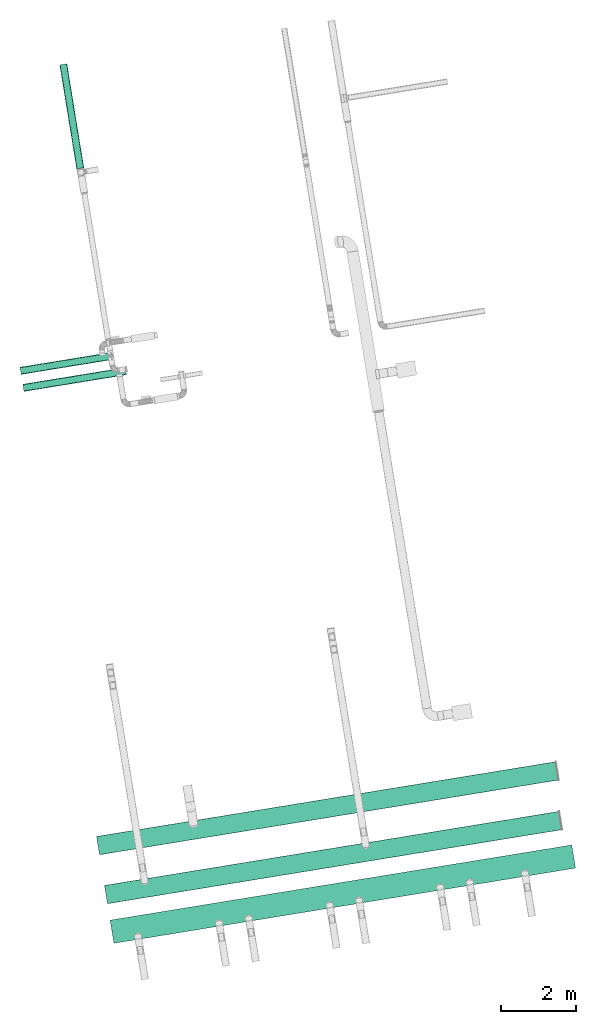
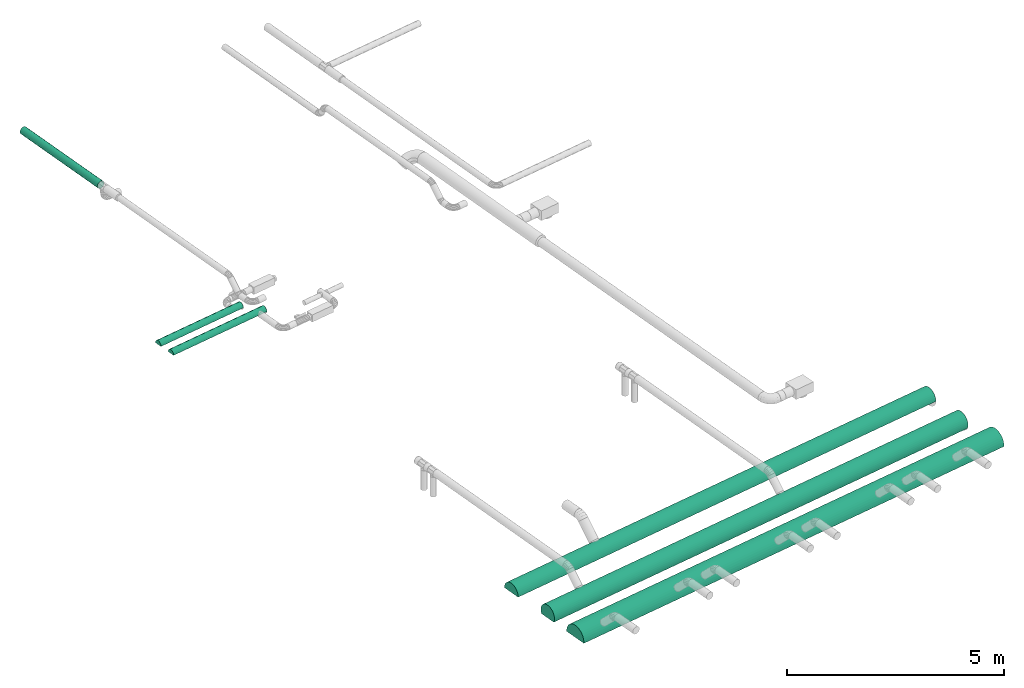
# One storey, part 9 of 19: 6 flow segments.
"""IFC2X3 building model written with IfcOpenShell, lengths in millimetres."""

from ifc_helpers import new_model, entity, si_unit, converted_unit, derived_unit, direction, frame, origin, origin_with_axes, place, context, subcontext, project, spatial, faceted_brep, material, type_object, element, save


model = new_model("IFC2X3")

# Units and contexts
model_context = context("Model", 3, precision=0.01, world=origin(), true_north=direction((6.12323399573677e-17, 1.0)))
plan_context = context("Plan", 3, precision=1e-05, world=origin_with_axes())
body_context = subcontext(model_context, "Body", "Model", "MODEL_VIEW")
ifc_project = project(units=[converted_unit("PLANEANGLEUNIT", "DEGREE", entity("IfcPositiveLengthMeasure", 0.0174532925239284), si_unit("PLANEANGLEUNIT", "RADIAN"), dimensions=[0, 0, 0, 0, 0, 0, 0]), si_unit("AREAUNIT", "SQUARE_METRE"), si_unit("LENGTHUNIT", "METRE", prefix="MILLI"), si_unit("MASSUNIT", "GRAM", prefix="KILO"), si_unit("POWERUNIT", "WATT"), si_unit("PRESSUREUNIT", "PASCAL", prefix="KILO"), si_unit("FORCEUNIT", "NEWTON", prefix="KILO"), si_unit("ELECTRICVOLTAGEUNIT", "VOLT"), si_unit("ELECTRICCURRENTUNIT", "AMPERE"), si_unit("THERMODYNAMICTEMPERATUREUNIT", "DEGREE_CELSIUS"), si_unit("TIMEUNIT", "SECOND"), si_unit("VOLUMEUNIT", "CUBIC_METRE"), derived_unit("LINEARVELOCITYUNIT", [(si_unit("LENGTHUNIT", "METRE"), 1), (si_unit("TIMEUNIT", "SECOND"), -1)]), derived_unit("VOLUMETRICFLOWRATEUNIT", [(si_unit("VOLUMEUNIT", "CUBIC_METRE"), 1), (si_unit("TIMEUNIT", "SECOND"), -1)]), derived_unit("THERMALTRANSMITTANCEUNIT", [(si_unit("POWERUNIT", "WATT"), 1), (si_unit("THERMODYNAMICTEMPERATUREUNIT", "KELVIN"), -1), (si_unit("AREAUNIT", "SQUARE_METRE"), -1)]), derived_unit("SOUNDPRESSUREUNIT", [(si_unit("PRESSUREUNIT", "PASCAL"), 1)])], contexts=[model_context, plan_context])

# Site, building, storey
site_placement = place(None, frame((5.09380697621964e-08, 5.80416781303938e-08, 0.0), z_axis=(0.0, 0.0, 1.0), x_axis=(-0.160806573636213, 0.986985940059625, 0.0)))
site = spatial("IfcSite", under=ifc_project, at=site_placement, Name="Default", CompositionType="ELEMENT")
building_placement = place(site_placement, frame((0.0, 0.0, 0.0), z_axis=(0.0, 0.0, 1.0), x_axis=(1.0, -2.77555756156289e-17, 0.0)))
building = spatial("IfcBuilding", under=site, at=building_placement, Name="Bygning (endres i Project Information)", CompositionType="ELEMENT")
storey_placement = place(building_placement, frame((0.0, 0.0, 51360.0000000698), z_axis=(0.0, 0.0, 1.0), x_axis=(1.0, -2.77555756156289e-17, 0.0)))
storey = spatial("IfcBuildingStorey", under=building, at=storey_placement, Name="H01-Nivå D+0,36", CompositionType="ELEMENT", Elevation=51360.0000000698)

# Flow segments
ifc_material = material(Name="3601.001 Tilluft")
duct_segment_type = type_object("IfcDuctSegmentType", Name="Round Duct:Sirkulær kanal", PredefinedType="NOTDEFINED", material=ifc_material)
flow_segment_1_placement = place(storey_placement, frame((0.0, 0.0, 0.0), z_axis=(0.0, 0.0, 1.0), x_axis=(1.0, -2.77555756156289e-17, 0.0)))
element("IfcFlowSegment", 1, at=flow_segment_1_placement, inside=storey, type_object=duct_segment_type, Name="Round Duct:Sirkulær kanal", ObjectType="Round Duct:Sirkulær kanal", context=body_context, shape_type="Brep", body=[
    faceted_brep([(1008816.84841839, -384051.763990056, 3167.36481779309), (1008818.36764309, -384051.763990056, 3150.0), (1008818.36764309, -386509.918778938, 3150.0), (1008816.84841839, -386509.918778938, 3167.36481779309), (1008819.24252973, -384051.763990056, 3139.99999993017), (1008817.49275645, -386509.918778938, 3139.99999993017), (1008619.24252942, -386509.918778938, 3139.99999993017), (1008619.24252943, -384051.763990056, 3139.99999993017), (1008618.36764278, -384051.763990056, 3150.0), (1008618.36764278, -386509.918778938, 3150.0), (1008619.88686748, -384051.763990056, 3167.36481779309), (1008619.88686748, -386509.918778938, 3167.36481779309), (1008624.39838071, -384051.763990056, 3184.20201438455), (1008624.39838071, -386509.918778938, 3184.20201438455), (1008631.76510243, -384051.763990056, 3200.000000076), (1008631.76510243, -386509.918778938, 3200.000000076), (1008641.76319851, -384051.763990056, 3214.27876106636), (1008641.76319851, -386509.918778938, 3214.27876106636), (1008654.08888187, -384051.763990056, 3226.60444442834), (1008654.08888187, -386509.918778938, 3226.60444442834), (1008668.36764286, -384051.763990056, 3236.60254051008), (1008668.36764286, -386509.918778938, 3236.60254051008), (1008684.16562855, -384051.763990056, 3243.96926222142), (1008684.16562855, -386509.918778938, 3243.96926222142), (1008701.00282514, -384051.763990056, 3248.48077545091), (1008701.00282514, -386509.918778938, 3248.48077545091), (1008718.36764294, -384051.763990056, 3250.000000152), (1008718.36764294, -386509.918778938, 3250.000000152), (1008735.73246073, -384051.763990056, 3248.48077545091), (1008735.73246073, -386509.918778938, 3248.48077545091), (1008752.56965732, -384051.763990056, 3243.96926222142), (1008752.56965732, -386509.918778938, 3243.96926222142), (1008768.36764301, -384051.763990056, 3236.60254051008), (1008768.36764301, -386509.918778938, 3236.60254051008), (1008782.646404, -384051.763990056, 3226.60444442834), (1008782.646404, -386509.918778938, 3226.60444442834), (1008794.97208736, -384051.763990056, 3214.27876106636), (1008794.97208736, -386509.918778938, 3214.27876106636), (1008804.97018345, -384051.763990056, 3200.000000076), (1008804.97018345, -386509.918778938, 3200.000000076), (1008812.33690516, -384051.763990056, 3184.20201438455), (1008812.33690516, -386509.918778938, 3184.20201438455), (1008817.49275645, -384051.763990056, 3139.99999993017)], [[[0, 1, 2, 3]], [[1, 4, 5, 2]], [[6, 7, 8, 9]], [[8, 10, 11, 9]], [[10, 12, 13, 11]], [[12, 14, 15, 13]], [[14, 16, 17, 15]], [[16, 18, 19, 17]], [[18, 20, 21, 19]], [[20, 22, 23, 21]], [[22, 24, 25, 23]], [[24, 26, 27, 25]], [[26, 28, 29, 27]], [[28, 30, 31, 29]], [[30, 32, 33, 31]], [[32, 34, 35, 33]], [[34, 36, 37, 35]], [[36, 38, 39, 37]], [[38, 40, 41, 39]], [[40, 0, 3, 41]], [[5, 6, 9, 11, 13, 15, 17, 19, 21, 23, 25, 27, 29, 31, 33, 35, 37, 39, 41, 3, 2]], [[42, 1, 0, 40, 38, 36, 34, 32, 30, 28, 26, 24, 22, 20, 18, 16, 14, 12, 10, 8, 7]], [[7, 6, 5, 42]]], orient=[[False], [False], [False], [False], [False], [False], [False], [False], [False], [False], [False], [False], [False], [False], [False], [False], [False], [False], [False], [False], [False], [False], [False]]),
])
flow_segment_2_placement = place(storey_placement, frame((0.0, 0.0, 0.0), z_axis=(0.0, 0.0, 1.0), x_axis=(1.0, -2.77555756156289e-17, 0.0)))
element("IfcFlowSegment", 2, at=flow_segment_2_placement, inside=storey, type_object=duct_segment_type, Name="Round Duct:Sirkulær kanal", ObjectType="Round Duct:Sirkulær kanal", context=body_context, shape_type="Brep", body=[
    faceted_brep([(995790.424500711, -384051.763990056, 3396.20193900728), (995833.836545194, -384051.763990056, 3400.00000076), (995833.836545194, -396509.835940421, 3400.00000076), (995790.424500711, -396509.835940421, 3396.20193900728), (995877.248589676, -384051.763990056, 3396.20193900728), (995877.248589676, -396509.835940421, 3396.20193900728), (995919.341581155, -384051.763990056, 3384.92315593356), (995919.341581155, -396509.835940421, 3384.92315593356), (995958.836545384, -384051.763990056, 3366.5063516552), (995958.836545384, -396509.835940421, 3366.5063516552), (995994.533447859, -384051.763990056, 3341.51111145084), (995994.533447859, -396509.835940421, 3341.51111145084), (996025.347656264, -384051.763990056, 3310.6969030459), (996025.347656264, -396509.835940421, 3310.6969030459), (996050.342896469, -384051.763990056, 3275.00000057), (996050.342896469, -396509.835940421, 3275.00000057), (996068.759700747, -384051.763990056, 3235.50503634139), (996068.759700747, -396509.835940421, 3235.50503634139), (996080.038483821, -384051.763990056, 3193.41204486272), (996080.038483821, -396509.835940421, 3193.41204486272), (996083.836545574, -384051.763990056, 3150.00000038), (996083.836545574, -396509.835940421, 3150.00000038), (996084.711432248, -384051.763990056, 3139.99999993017), (996082.961658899, -396509.835940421, 3139.99999993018), (995584.711431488, -396509.835940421, 3139.99999993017), (995584.711431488, -384051.763990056, 3139.99999993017), (995583.836544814, -384051.763990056, 3150.00000038), (995583.836544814, -396509.835940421, 3150.00000038), (995587.634606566, -384051.763990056, 3193.41204486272), (995587.634606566, -396509.835940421, 3193.41204486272), (995598.91338964, -384051.763990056, 3235.50503634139), (995598.91338964, -396509.835940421, 3235.50503634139), (995617.330193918, -384051.763990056, 3275.00000057), (995617.330193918, -396509.835940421, 3275.00000057), (995642.325434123, -384051.763990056, 3310.6969030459), (995642.325434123, -396509.835940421, 3310.6969030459), (995673.139642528, -384051.763990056, 3341.51111145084), (995673.139642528, -396509.835940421, 3341.51111145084), (995708.836545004, -384051.763990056, 3366.5063516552), (995708.836545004, -396509.835940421, 3366.5063516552), (995748.331509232, -384051.763990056, 3384.92315593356), (995748.331509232, -396509.835940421, 3384.92315593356), (996082.961658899, -384051.763990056, 3139.99999993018)], [[[0, 1, 2, 3]], [[1, 4, 5, 2]], [[4, 6, 7, 5]], [[6, 8, 9, 7]], [[8, 10, 11, 9]], [[10, 12, 13, 11]], [[12, 14, 15, 13]], [[14, 16, 17, 15]], [[16, 18, 19, 17]], [[18, 20, 21, 19]], [[20, 22, 23, 21]], [[24, 25, 26, 27]], [[26, 28, 29, 27]], [[28, 30, 31, 29]], [[30, 32, 33, 31]], [[32, 34, 35, 33]], [[34, 36, 37, 35]], [[36, 38, 39, 37]], [[38, 40, 41, 39]], [[40, 0, 3, 41]], [[23, 24, 27, 29, 31, 33, 35, 37, 39, 41, 3, 2, 5, 7, 9, 11, 13, 15, 17, 19, 21]], [[42, 20, 18, 16, 14, 12, 10, 8, 6, 4, 1, 0, 40, 38, 36, 34, 32, 30, 28, 26, 25]], [[25, 24, 23, 42]]], orient=[[False], [False], [False], [False], [False], [False], [False], [False], [False], [False], [False], [False], [False], [False], [False], [False], [False], [False], [False], [False], [False], [False], [False]]),
])
flow_segment_3_placement = place(storey_placement, frame((0.0, 0.0, 0.0), z_axis=(0.0, 0.0, 1.0), x_axis=(1.0, -2.77555756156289e-17, 0.0)))
element("IfcFlowSegment", 3, at=flow_segment_3_placement, inside=storey, type_object=duct_segment_type, Name="Round Duct:Sirkulær kanal", ObjectType="Round Duct:Sirkulær kanal", context=body_context, shape_type="Brep", body=[
    faceted_brep([(993182.901492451, -396579.08408958, 3165.0073238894), (993185.089349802, -396579.084056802, 3139.99999993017), (993185.090332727, -384051.763990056, 3139.99999993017), (993182.901492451, -384051.763990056, 3165.01855877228), (993187.687050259, -384051.763990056, 3219.71773482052), (993187.687050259, -396579.084089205, 3219.70649993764), (993201.898316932, -384051.763981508, 3272.75490408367), (993201.898316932, -396579.084357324, 3272.74366920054), (993225.103490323, -384051.763954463, 3322.51855901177), (993225.103490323, -396579.084957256, 3322.50732412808), (993256.59749298, -384051.763890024, 3367.49665613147), (993256.59749298, -396579.086067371, 3367.48542124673), (993295.42339557, -384051.759924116, 3406.32255872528), (993295.42339557, -396579.084295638, 3406.31132383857), (993340.40149269, -384051.759952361, 3437.81656138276), (993340.40149269, -396579.084323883, 3437.80532649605), (993390.165147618, -384051.759973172, 3461.02173477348), (993390.165147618, -396579.084344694, 3461.01049988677), (993443.202316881, -384051.759985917, 3475.23300144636), (993443.202316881, -396579.084357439, 3475.22176655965), (993497.901492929, -384051.762174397, 3480.01855925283), (993497.901492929, -396579.084171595, 3480.00732436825), (993552.600668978, -384051.763870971, 3475.23300144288), (993552.600668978, -396579.084357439, 3475.22176655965), (993605.637838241, -384051.763612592, 3461.02173477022), (993605.637838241, -396579.084344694, 3461.01049988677), (993655.401493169, -384051.76331235, 3437.81656137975), (993655.401493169, -396579.084323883, 3437.80532649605), (993700.379590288, -384051.762944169, 3406.32255872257), (993700.379590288, -396579.084295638, 3406.31132383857), (993739.205492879, -384051.76378603, 3367.49665613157), (993739.205492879, -396579.085585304, 3367.48542124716), (993770.699495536, -384051.763909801, 3322.51855901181), (993770.699495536, -396579.085146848, 3322.50732412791), (993793.904668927, -384051.763964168, 3272.75490408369), (993793.904668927, -396579.084792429, 3272.74366920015), (993808.1159356, -384051.763984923, 3219.71773482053), (993808.1159356, -396579.084360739, 3219.7064999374), (993812.901493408, -384051.763990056, 3165.01855877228), (993812.901493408, -396579.08408958, 3165.0073238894), (993810.712653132, -384051.763990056, 3139.99999993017), (993810.713636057, -396579.084056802, 3139.99999993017), (993808.1159356, -384051.763990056, 3219.71773482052), (993793.904668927, -384051.763990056, 3272.75490408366), (993770.699495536, -384051.763990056, 3322.51855901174), (993739.205492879, -384051.763990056, 3367.49665613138), (993700.379590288, -384051.763990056, 3406.32255872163), (993655.401493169, -384051.763990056, 3437.81656137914), (993605.637838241, -384051.763990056, 3461.02173476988), (993552.600668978, -384051.763990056, 3475.23300144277), (993497.901492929, -384051.763990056, 3480.0185592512), (993443.202316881, -384051.763990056, 3475.23300144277), (993390.165147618, -384051.763990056, 3461.02173476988), (993340.40149269, -384051.763990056, 3437.81656137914), (993295.42339557, -384051.763990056, 3406.32255872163), (993256.59749298, -384051.763990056, 3367.49665613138), (993225.103490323, -384051.763990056, 3322.51855901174), (993201.898316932, -384051.763990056, 3272.75490408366), (993182.901492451, -396579.084056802, 3165.00732388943), (993187.687050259, -396579.084056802, 3219.70649993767), (993201.898316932, -396579.084056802, 3272.74366920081), (993225.103490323, -396579.084056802, 3322.50732412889), (993256.59749298, -396579.084056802, 3367.48542124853), (993295.42339557, -396579.084056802, 3406.31132383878), (993340.40149269, -396579.084056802, 3437.80532649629), (993390.165147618, -396579.084056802, 3461.01049988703), (993443.202316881, -396579.084056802, 3475.22176655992), (993497.901492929, -396579.084056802, 3480.00732436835), (993552.600668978, -396579.084056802, 3475.22176655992), (993605.637838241, -396579.084056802, 3461.01049988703), (993655.401493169, -396579.084056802, 3437.80532649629), (993700.379590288, -396579.084056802, 3406.31132383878), (993739.205492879, -396579.084056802, 3367.48542124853), (993770.699495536, -396579.084056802, 3322.50732412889), (993793.904668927, -396579.084056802, 3272.74366920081), (993808.1159356, -396579.084056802, 3219.70649993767), (993812.901493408, -396579.084056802, 3165.00732388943)], [[[0, 1, 2, 3]], [[3, 4, 5, 0]], [[4, 6, 7, 5]], [[6, 8, 9, 7]], [[8, 10, 11, 9]], [[10, 12, 13, 11]], [[12, 14, 15, 13]], [[14, 16, 17, 15]], [[16, 18, 19, 17]], [[18, 20, 21, 19]], [[20, 22, 23, 21]], [[22, 24, 25, 23]], [[24, 26, 27, 25]], [[26, 28, 29, 27]], [[28, 30, 31, 29]], [[30, 32, 33, 31]], [[32, 34, 35, 33]], [[34, 36, 37, 35]], [[36, 38, 39, 37]], [[38, 40, 41, 39]], [[40, 38, 42, 43, 44, 45, 46, 47, 48, 49, 50, 51, 52, 53, 54, 55, 56, 57, 4, 3, 2]], [[1, 58, 59, 60, 61, 62, 63, 64, 65, 66, 67, 68, 69, 70, 71, 72, 73, 74, 75, 76, 41]], [[41, 40, 2, 1]]], orient=[[False], [False], [False], [False], [False], [False], [False], [False], [False], [False], [False], [False], [False], [False], [False], [False], [False], [False], [False], [False], [False], [False], [False]]),
])
flow_segment_4_placement = place(storey_placement, frame((0.0, 0.0, 0.0), z_axis=(0.0, 0.0, 1.0), x_axis=(1.0, -2.77555756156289e-17, 0.0)))
element("IfcFlowSegment", 4, at=flow_segment_4_placement, inside=storey, type_object=duct_segment_type, Name="Round Duct:Sirkulær kanal", ObjectType="Round Duct:Sirkulær kanal", context=body_context, shape_type="Brep", body=[
    faceted_brep([(994259.81952276, -384051.763990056, 3206.58795589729), (994256.021461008, -384051.763990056, 3250.00000038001), (994256.021461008, -396382.73177938, 3250.00000038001), (994259.81952276, -396382.73177938, 3206.58795589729), (994259.81952276, -384051.763990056, 3293.41204486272), (994259.81952276, -396382.73177938, 3293.41204486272), (994271.098305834, -384051.763990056, 3335.50503634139), (994271.098305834, -396382.73177938, 3335.50503634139), (994289.515110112, -384051.763990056, 3375.00000057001), (994289.515110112, -396382.73177938, 3375.00000057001), (994314.510350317, -384051.763990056, 3410.6969030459), (994314.510350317, -396382.73177938, 3410.6969030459), (994345.324558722, -384051.763990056, 3441.51111145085), (994345.324558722, -396382.73177938, 3441.51111145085), (994381.021461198, -384051.763990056, 3466.50635165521), (994381.021461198, -396382.73177938, 3466.50635165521), (994420.516425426, -384051.763990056, 3484.92315593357), (994420.516425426, -396382.73177938, 3484.92315593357), (994462.609416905, -384051.763990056, 3496.20193900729), (994462.609416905, -396382.73177938, 3496.20193900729), (994506.021461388, -384051.763990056, 3500.00000076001), (994506.021461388, -396382.73177938, 3500.00000076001), (994549.43350587, -384051.763990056, 3496.20193900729), (994549.43350587, -396382.73177938, 3496.20193900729), (994591.526497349, -384051.763990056, 3484.92315593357), (994591.526497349, -396382.73177938, 3484.92315593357), (994631.021461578, -384051.763990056, 3466.50635165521), (994631.021461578, -396382.73177938, 3466.50635165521), (994666.718364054, -384051.763990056, 3441.51111145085), (994666.718364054, -396382.73177938, 3441.51111145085), (994697.532572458, -384051.763990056, 3410.6969030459), (994697.532572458, -396382.73177938, 3410.6969030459), (994722.527812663, -384051.763990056, 3375.00000057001), (994722.527812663, -396382.73177938, 3375.00000057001), (994740.944616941, -384051.763990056, 3335.50503634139), (994740.944616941, -396382.73177938, 3335.50503634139), (994752.223400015, -384051.763990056, 3293.41204486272), (994752.223400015, -396382.73177938, 3293.41204486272), (994756.021461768, -384051.763990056, 3250.00000038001), (994756.021461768, -396382.73177938, 3250.00000038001), (994752.223400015, -384051.763990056, 3206.58795589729), (994752.223400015, -396382.73177938, 3206.58795589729), (994740.944616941, -384051.763990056, 3164.49496441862), (994740.944616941, -396382.73177938, 3164.49496441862), (994729.522427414, -384051.763990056, 3139.99999993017), (994729.522427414, -396382.73177938, 3139.99999993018), (994282.520495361, -396382.73177938, 3139.99999993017), (994282.520495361, -384051.763990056, 3139.99999993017), (994271.098305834, -384051.763990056, 3164.49496441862), (994271.098305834, -396382.73177938, 3164.49496441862)], [[[0, 1, 2, 3]], [[1, 4, 5, 2]], [[4, 6, 7, 5]], [[6, 8, 9, 7]], [[8, 10, 11, 9]], [[10, 12, 13, 11]], [[12, 14, 15, 13]], [[14, 16, 17, 15]], [[16, 18, 19, 17]], [[18, 20, 21, 19]], [[20, 22, 23, 21]], [[22, 24, 25, 23]], [[24, 26, 27, 25]], [[26, 28, 29, 27]], [[28, 30, 31, 29]], [[30, 32, 33, 31]], [[32, 34, 35, 33]], [[34, 36, 37, 35]], [[36, 38, 39, 37]], [[38, 40, 41, 39]], [[40, 42, 43, 41]], [[42, 44, 45, 43]], [[46, 47, 48, 49]], [[48, 0, 3, 49]], [[45, 46, 49, 3, 2, 5, 7, 9, 11, 13, 15, 17, 19, 21, 23, 25, 27, 29, 31, 33, 35, 37, 39, 41, 43]], [[44, 42, 40, 38, 36, 34, 32, 30, 28, 26, 24, 22, 20, 18, 16, 14, 12, 10, 8, 6, 4, 1, 0, 48, 47]], [[47, 46, 45, 44]]], orient=[[False], [False], [False], [False], [False], [False], [False], [False], [False], [False], [False], [False], [False], [False], [False], [False], [False], [False], [False], [False], [False], [False], [False], [False], [False], [False], [False]]),
])
flow_segment_5_placement = place(storey_placement, frame((0.0, 0.0, 0.0), z_axis=(0.0, 0.0, 1.0), x_axis=(1.0, -2.77555756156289e-17, 0.0)))
element("IfcFlowSegment", 5, at=flow_segment_5_placement, inside=storey, type_object=duct_segment_type, Name="Round Duct:Sirkulær kanal", ObjectType="Round Duct:Sirkulær kanal", context=body_context, shape_type="Brep", body=[
    faceted_brep([(1016638.36764302, -386402.916360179, 3782.63518217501), (1016638.36764302, -386401.397135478, 3799.9999999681), (1013812.99004626, -386401.397135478, 3799.9999999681), (1013812.99004626, -386402.916360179, 3782.63518217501), (1016638.36764302, -386402.916360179, 3817.36481776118), (1013812.99004626, -386402.916360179, 3817.36481776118), (1016638.36764302, -386407.427873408, 3834.20201435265), (1013812.99004626, -386407.427873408, 3834.20201435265), (1016638.36764302, -386414.79459512, 3850.0000000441), (1013812.99004626, -386414.79459512, 3850.0000000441), (1016638.36764302, -386424.792691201, 3864.27876103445), (1013812.99004626, -386424.792691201, 3864.27876103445), (1016638.36764302, -386437.118374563, 3876.60444439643), (1013812.99004626, -386437.118374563, 3876.60444439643), (1016638.36764302, -386451.397135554, 3886.60254047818), (1013812.99004626, -386451.397135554, 3886.60254047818), (1016638.36764302, -386467.195121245, 3893.96926218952), (1013812.99004626, -386467.195121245, 3893.96926218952), (1016638.36764302, -386484.032317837, 3898.48077541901), (1013812.99004626, -386484.032317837, 3898.48077541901), (1016638.36764302, -386501.39713563, 3900.0000001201), (1013812.99004626, -386501.39713563, 3900.0000001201), (1016638.36764302, -386518.761953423, 3898.48077541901), (1013812.99004626, -386518.761953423, 3898.48077541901), (1016638.36764302, -386535.599150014, 3893.96926218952), (1013812.99004626, -386535.599150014, 3893.96926218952), (1016638.36764302, -386551.397135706, 3886.60254047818), (1013812.99004626, -386551.397135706, 3886.60254047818), (1016638.36764302, -386565.675896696, 3876.60444439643), (1013812.99004626, -386565.675896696, 3876.60444439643), (1016638.36764302, -386578.001580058, 3864.27876103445), (1013812.99004626, -386578.001580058, 3864.27876103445), (1016638.36764302, -386587.99967614, 3850.0000000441), (1013812.99004626, -386587.99967614, 3850.0000000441), (1016638.36764302, -386595.366397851, 3834.20201435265), (1013812.99004626, -386595.366397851, 3834.20201435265), (1016638.36764302, -386599.877911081, 3817.36481776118), (1013812.99004626, -386599.877911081, 3817.36481776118), (1016638.36764302, -386601.397135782, 3799.9999999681), (1013812.99004626, -386601.397135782, 3799.9999999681), (1016638.36764302, -386599.877911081, 3782.63518217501), (1013812.99004626, -386599.877911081, 3782.63518217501), (1016638.36764302, -386595.366397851, 3765.79798558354), (1013812.99004626, -386595.366397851, 3765.79798558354), (1016638.36764302, -386587.99967614, 3749.9999998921), (1013812.99004626, -386587.99967614, 3749.9999998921), (1016638.36764302, -386578.001580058, 3735.72123890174), (1013812.99004626, -386578.001580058, 3735.72123890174), (1016638.36764302, -386565.675896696, 3723.39555553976), (1013812.99004626, -386565.675896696, 3723.39555553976), (1016638.36764302, -386551.397135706, 3713.39745945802), (1013812.99004626, -386551.397135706, 3713.39745945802), (1016638.36764302, -386535.599150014, 3706.03073774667), (1013812.99004626, -386535.599150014, 3706.03073774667), (1016638.36764302, -386518.761953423, 3701.51922451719), (1013812.99004626, -386518.761953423, 3701.51922451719), (1016638.36764302, -386501.39713563, 3699.9999998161), (1013812.99004626, -386501.39713563, 3699.9999998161), (1016638.36764302, -386484.032317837, 3701.51922451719), (1013812.99004626, -386484.032317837, 3701.51922451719), (1016638.36764302, -386467.195121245, 3706.03073774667), (1013812.99004626, -386467.195121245, 3706.03073774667), (1016638.36764302, -386451.397135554, 3713.39745945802), (1013812.99004626, -386451.397135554, 3713.39745945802), (1016638.36764302, -386437.118374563, 3723.39555553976), (1013812.99004626, -386437.118374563, 3723.39555553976), (1016638.36764302, -386424.792691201, 3735.72123890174), (1013812.99004626, -386424.792691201, 3735.72123890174), (1016638.36764302, -386414.79459512, 3749.9999998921), (1013812.99004626, -386414.79459512, 3749.9999998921), (1016638.36764302, -386407.427873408, 3765.79798558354), (1013812.99004626, -386407.427873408, 3765.79798558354)], [[[0, 1, 2, 3]], [[1, 4, 5, 2]], [[4, 6, 7, 5]], [[6, 8, 9, 7]], [[8, 10, 11, 9]], [[10, 12, 13, 11]], [[12, 14, 15, 13]], [[14, 16, 17, 15]], [[16, 18, 19, 17]], [[18, 20, 21, 19]], [[20, 22, 23, 21]], [[22, 24, 25, 23]], [[24, 26, 27, 25]], [[26, 28, 29, 27]], [[28, 30, 31, 29]], [[30, 32, 33, 31]], [[32, 34, 35, 33]], [[34, 36, 37, 35]], [[36, 38, 39, 37]], [[38, 40, 41, 39]], [[40, 42, 43, 41]], [[42, 44, 45, 43]], [[44, 46, 47, 45]], [[46, 48, 49, 47]], [[48, 50, 51, 49]], [[50, 52, 53, 51]], [[52, 54, 55, 53]], [[54, 56, 57, 55]], [[56, 58, 59, 57]], [[58, 60, 61, 59]], [[60, 62, 63, 61]], [[62, 64, 65, 63]], [[64, 66, 67, 65]], [[66, 68, 69, 67]], [[68, 70, 71, 69]], [[70, 0, 3, 71]], [[3, 2, 5, 7, 9, 11, 13, 15, 17, 19, 21, 23, 25, 27, 29, 31, 33, 35, 37, 39, 41, 43, 45, 47, 49, 51, 53, 55, 57, 59, 61, 63, 65, 67, 69, 71]], [[70, 68, 66, 64, 62, 60, 58, 56, 54, 52, 50, 48, 46, 44, 42, 40, 38, 36, 34, 32, 30, 28, 26, 24, 22, 20, 18, 16, 14, 12, 10, 8, 6, 4, 1, 0]]], orient=[[False], [False], [False], [False], [False], [False], [False], [False], [False], [False], [False], [False], [False], [False], [False], [False], [False], [False], [False], [False], [False], [False], [False], [False], [False], [False], [False], [False], [False], [False], [False], [False], [False], [False], [False], [False], [False], [False]]),
])
flow_segment_6_placement = place(storey_placement, frame((0.0, 0.0, 0.0), z_axis=(0.0, 0.0, 1.0), x_axis=(1.0, -2.77555756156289e-17, 0.0)))
element("IfcFlowSegment", 6, at=flow_segment_6_placement, inside=storey, type_object=duct_segment_type, Name="Round Duct:Sirkulær kanal", ObjectType="Round Duct:Sirkulær kanal", context=body_context, shape_type="Brep", body=[
    faceted_brep([(1008354.34841839, -384051.763990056, 3167.36481779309), (1008355.86764309, -384051.763990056, 3150.0), (1008355.86764309, -386829.918778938, 3150.0), (1008354.34841839, -386829.918778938, 3167.36481779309), (1008356.74252973, -384051.763990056, 3139.99999993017), (1008354.99275645, -386829.918778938, 3139.99999993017), (1008156.74252942, -386829.918778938, 3139.99999993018), (1008156.74252943, -384051.763990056, 3139.99999993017), (1008155.86764278, -384051.763990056, 3150.0), (1008155.86764278, -386829.918778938, 3150.0), (1008157.38686748, -384051.763990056, 3167.36481779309), (1008157.38686748, -386829.918778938, 3167.36481779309), (1008161.89838071, -384051.763990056, 3184.20201438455), (1008161.89838071, -386829.918778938, 3184.20201438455), (1008169.26510243, -384051.763990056, 3200.000000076), (1008169.26510243, -386829.918778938, 3200.000000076), (1008179.26319851, -384051.763990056, 3214.27876106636), (1008179.26319851, -386829.918778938, 3214.27876106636), (1008191.58888187, -384051.763990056, 3226.60444442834), (1008191.58888187, -386829.918778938, 3226.60444442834), (1008205.86764286, -384051.763990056, 3236.60254051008), (1008205.86764286, -386829.918778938, 3236.60254051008), (1008221.66562855, -384051.763990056, 3243.96926222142), (1008221.66562855, -386829.918778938, 3243.96926222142), (1008238.50282514, -384051.763990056, 3248.48077545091), (1008238.50282514, -386829.918778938, 3248.48077545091), (1008255.86764294, -384051.763990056, 3250.000000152), (1008255.86764294, -386829.918778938, 3250.000000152), (1008273.23246073, -384051.763990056, 3248.48077545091), (1008273.23246073, -386829.918778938, 3248.48077545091), (1008290.06965732, -384051.763990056, 3243.96926222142), (1008290.06965732, -386829.918778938, 3243.96926222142), (1008305.86764301, -384051.763990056, 3236.60254051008), (1008305.86764301, -386829.918778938, 3236.60254051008), (1008320.146404, -384051.763990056, 3226.60444442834), (1008320.146404, -386829.918778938, 3226.60444442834), (1008332.47208736, -384051.763990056, 3214.27876106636), (1008332.47208736, -386829.918778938, 3214.27876106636), (1008342.47018345, -384051.763990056, 3200.000000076), (1008342.47018345, -386829.918778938, 3200.000000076), (1008349.83690516, -384051.763990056, 3184.20201438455), (1008349.83690516, -386829.918778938, 3184.20201438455), (1008354.99275645, -384051.763990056, 3139.99999993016)], [[[0, 1, 2, 3]], [[1, 4, 5, 2]], [[6, 7, 8, 9]], [[8, 10, 11, 9]], [[10, 12, 13, 11]], [[12, 14, 15, 13]], [[14, 16, 17, 15]], [[16, 18, 19, 17]], [[18, 20, 21, 19]], [[20, 22, 23, 21]], [[22, 24, 25, 23]], [[24, 26, 27, 25]], [[26, 28, 29, 27]], [[28, 30, 31, 29]], [[30, 32, 33, 31]], [[32, 34, 35, 33]], [[34, 36, 37, 35]], [[36, 38, 39, 37]], [[38, 40, 41, 39]], [[40, 0, 3, 41]], [[5, 6, 9, 11, 13, 15, 17, 19, 21, 23, 25, 27, 29, 31, 33, 35, 37, 39, 41, 3, 2]], [[42, 1, 0, 40, 38, 36, 34, 32, 30, 28, 26, 24, 22, 20, 18, 16, 14, 12, 10, 8, 7]], [[7, 6, 5, 42]]], orient=[[False], [False], [False], [False], [False], [False], [False], [False], [False], [False], [False], [False], [False], [False], [False], [False], [False], [False], [False], [False], [False], [False], [False]]),
])

save(model, "model.ifc")
